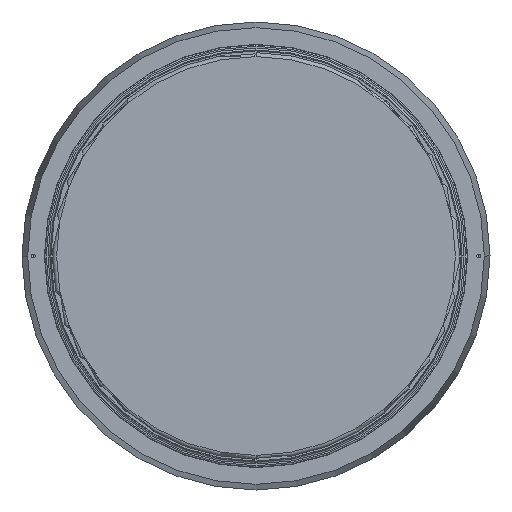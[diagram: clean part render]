
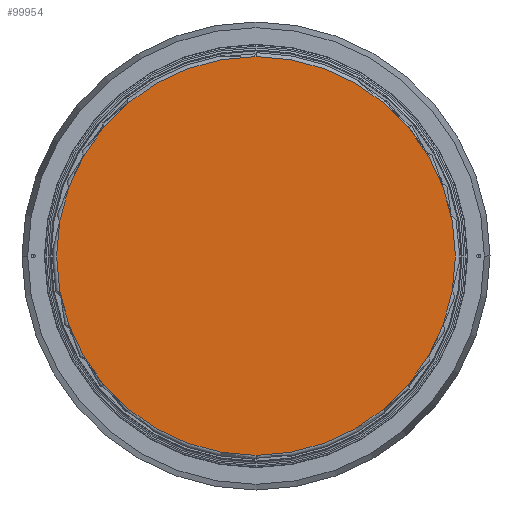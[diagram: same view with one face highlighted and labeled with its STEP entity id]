
A CAD part, front view. The second image highlights one B-rep face of the part: STEP entity #99954.
In plain terms, the highlighted planar face has unit normal (0, -1, 0).
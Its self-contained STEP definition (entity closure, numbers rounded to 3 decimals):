
#2558 = AXIS2_PLACEMENT_3D ( 'NONE', #21605, #90132, #31455 ) ;
#2921 = EDGE_CURVE ( 'NONE', #78200, #85337, #114234, .T. ) ;
#7725 = DIRECTION ( 'NONE',  ( 0., -1., 0. ) ) ;
#21605 = CARTESIAN_POINT ( 'NONE',  ( 0.923, -1522.096, 0. ) ) ;
#31455 = DIRECTION ( 'NONE',  ( 0., 0., 1. ) ) ;
#34977 = CARTESIAN_POINT ( 'NONE',  ( 0.923, -1522.096, 524. ) ) ;
#38789 = ORIENTED_EDGE ( 'NONE', *, *, #2921, .T. ) ;
#43113 = CIRCLE ( 'NONE', #94007, 524. ) ;
#44771 = DIRECTION ( 'NONE',  ( 0., 1., 0. ) ) ;
#54274 = PLANE ( 'NONE',  #124528 ) ;
#57151 = ORIENTED_EDGE ( 'NONE', *, *, #117152, .T. ) ;
#66519 = CARTESIAN_POINT ( 'NONE',  ( 0.923, -1522.096, 0. ) ) ;
#71477 = EDGE_LOOP ( 'NONE', ( #57151, #38789 ) ) ;
#76383 = DIRECTION ( 'NONE',  ( 0., 0., 1. ) ) ;
#78200 = VERTEX_POINT ( 'NONE', #89889 ) ;
#85337 = VERTEX_POINT ( 'NONE', #34977 ) ;
#89889 = CARTESIAN_POINT ( 'NONE',  ( 0.923, -1522.096, -524. ) ) ;
#90132 = DIRECTION ( 'NONE',  ( 0., -1., 0. ) ) ;
#94007 = AXIS2_PLACEMENT_3D ( 'NONE', #66519, #7725, #76383 ) ;
#99954 = ADVANCED_FACE ( 'NONE', ( #113005 ), #54274, .F. ) ;
#103523 = CARTESIAN_POINT ( 'NONE',  ( 524.923, -1522.096, 500000. ) ) ;
#113005 = FACE_OUTER_BOUND ( 'NONE', #71477, .T. ) ;
#113335 = DIRECTION ( 'NONE',  ( -1., 0., 0. ) ) ;
#114234 = CIRCLE ( 'NONE', #2558, 524. ) ;
#117152 = EDGE_CURVE ( 'NONE', #85337, #78200, #43113, .T. ) ;
#124528 = AXIS2_PLACEMENT_3D ( 'NONE', #103523, #44771, #113335 ) ;
